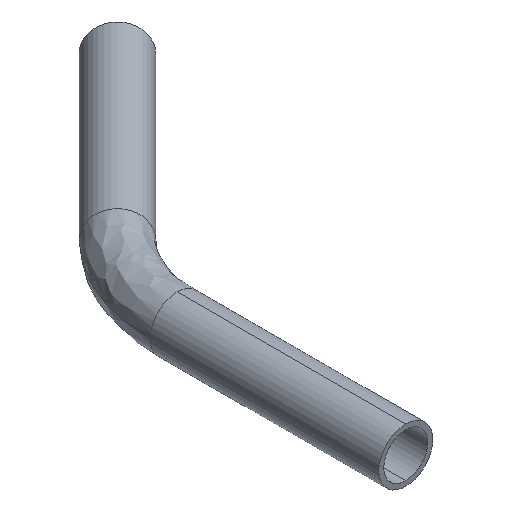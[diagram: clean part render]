
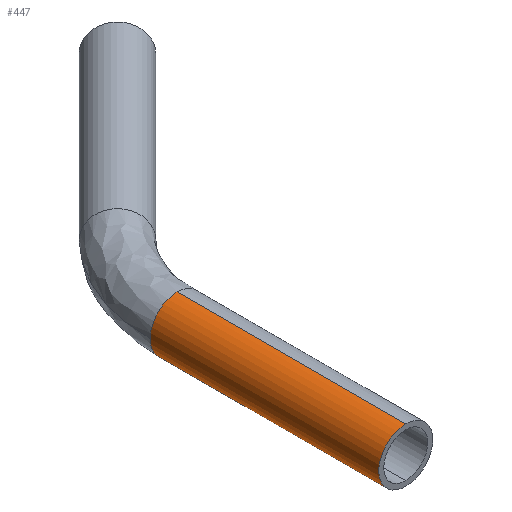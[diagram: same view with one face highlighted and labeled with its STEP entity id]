
A CAD part, isometric view. The second image highlights one B-rep face of the part: STEP entity #447.
In plain terms, the highlighted cylindrical face has radius 4.765 mm (diameter 9.53 mm), a partial arc.
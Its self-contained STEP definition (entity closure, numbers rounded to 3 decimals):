
#6 = LINE ( 'NONE', #125, #377 ) ;
#17 = CARTESIAN_POINT ( 'NONE',  ( 0., 0., -4.765 ) ) ;
#24 = EDGE_CURVE ( 'NONE', #329, #62, #6, .T. ) ;
#31 = CARTESIAN_POINT ( 'NONE',  ( -4.765, 40.279, 0. ) ) ;
#36 = CARTESIAN_POINT ( 'NONE',  ( 0., 40.279, 0. ) ) ;
#46 = ORIENTED_EDGE ( 'NONE', *, *, #501, .T. ) ;
#47 = CIRCLE ( 'NONE', #326, 4.765 ) ;
#50 = CIRCLE ( 'NONE', #399, 4.765 ) ;
#51 = ORIENTED_EDGE ( 'NONE', *, *, #478, .F. ) ;
#56 = VERTEX_POINT ( 'NONE', #85 ) ;
#62 = VERTEX_POINT ( 'NONE', #17 ) ;
#74 = CARTESIAN_POINT ( 'NONE',  ( 0., 0., 4.765 ) ) ;
#76 = CYLINDRICAL_SURFACE ( 'NONE', #218, 4.765 ) ;
#85 = CARTESIAN_POINT ( 'NONE',  ( 0., 40.279, 4.765 ) ) ;
#91 = EDGE_LOOP ( 'NONE', ( #486, #335, #51, #242, #46 ) ) ;
#125 = CARTESIAN_POINT ( 'NONE',  ( 0., 40.279, -4.765 ) ) ;
#131 = AXIS2_PLACEMENT_3D ( 'NONE', #36, #412, #414 ) ;
#132 = DIRECTION ( 'NONE',  ( 0., -1., 0. ) ) ;
#138 = CARTESIAN_POINT ( 'NONE',  ( 0., 40.279, -4.765 ) ) ;
#185 = DIRECTION ( 'NONE',  ( 0., 0., -1. ) ) ;
#193 = DIRECTION ( 'NONE',  ( 0., 1., 0. ) ) ;
#195 = CARTESIAN_POINT ( 'NONE',  ( 0., 0., 0. ) ) ;
#218 = AXIS2_PLACEMENT_3D ( 'NONE', #245, #500, #442 ) ;
#242 = ORIENTED_EDGE ( 'NONE', *, *, #24, .T. ) ;
#245 = CARTESIAN_POINT ( 'NONE',  ( 0., 40.279, 0. ) ) ;
#254 = EDGE_CURVE ( 'NONE', #255, #56, #396, .T. ) ;
#255 = VERTEX_POINT ( 'NONE', #31 ) ;
#311 = CARTESIAN_POINT ( 'NONE',  ( 0., 40.279, 4.765 ) ) ;
#326 = AXIS2_PLACEMENT_3D ( 'NONE', #426, #419, #397 ) ;
#327 = VERTEX_POINT ( 'NONE', #74 ) ;
#329 = VERTEX_POINT ( 'NONE', #138 ) ;
#335 = ORIENTED_EDGE ( 'NONE', *, *, #254, .F. ) ;
#374 = EDGE_CURVE ( 'NONE', #56, #327, #415, .T. ) ;
#377 = VECTOR ( 'NONE', #132, 1000. ) ;
#381 = VECTOR ( 'NONE', #475, 1000. ) ;
#396 = CIRCLE ( 'NONE', #131, 4.765 ) ;
#397 = DIRECTION ( 'NONE',  ( -1., 0., 0. ) ) ;
#399 = AXIS2_PLACEMENT_3D ( 'NONE', #195, #193, #185 ) ;
#401 = FACE_OUTER_BOUND ( 'NONE', #91, .T. ) ;
#412 = DIRECTION ( 'NONE',  ( 0., 1., 0. ) ) ;
#414 = DIRECTION ( 'NONE',  ( -1., 0., 0. ) ) ;
#415 = LINE ( 'NONE', #311, #381 ) ;
#419 = DIRECTION ( 'NONE',  ( 0., 1., 0. ) ) ;
#426 = CARTESIAN_POINT ( 'NONE',  ( 0., 40.279, 0. ) ) ;
#442 = DIRECTION ( 'NONE',  ( 0., 0., -1. ) ) ;
#447 = ADVANCED_FACE ( 'NONE', ( #401 ), #76, .T. ) ;
#475 = DIRECTION ( 'NONE',  ( 0., -1., 0. ) ) ;
#478 = EDGE_CURVE ( 'NONE', #329, #255, #47, .T. ) ;
#486 = ORIENTED_EDGE ( 'NONE', *, *, #374, .F. ) ;
#500 = DIRECTION ( 'NONE',  ( 0., -1., 0. ) ) ;
#501 = EDGE_CURVE ( 'NONE', #62, #327, #50, .T. ) ;
